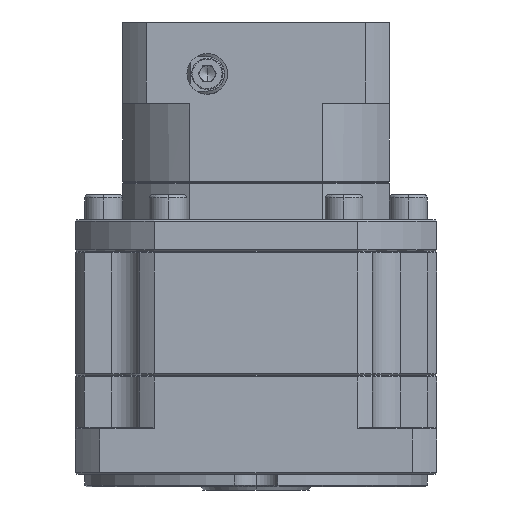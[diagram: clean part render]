
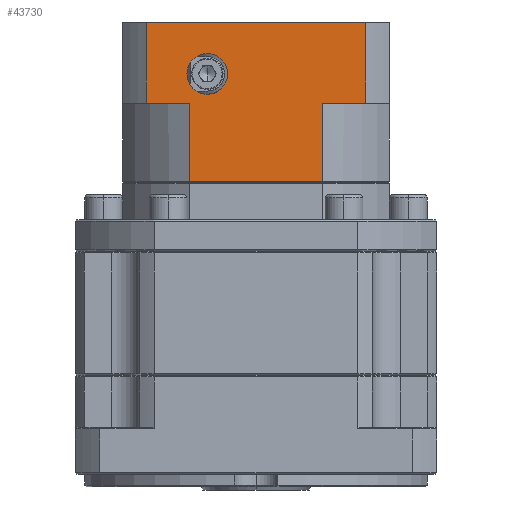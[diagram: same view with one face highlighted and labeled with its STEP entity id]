
A CAD part, left-side view. The second image highlights one B-rep face of the part: STEP entity #43730.
In plain terms, the highlighted planar face has unit normal (-1, 0, 0).
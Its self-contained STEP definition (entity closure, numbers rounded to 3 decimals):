
#202 = VERTEX_POINT ( 'NONE', #100916 ) ;
#3909 = CARTESIAN_POINT ( 'NONE',  ( -119.767, 53.201, -16.595 ) ) ;
#4497 = LINE ( 'NONE', #84396, #54358 ) ;
#4932 = LINE ( 'NONE', #22613, #28479 ) ;
#6840 = LINE ( 'NONE', #49712, #30420 ) ;
#7086 = VERTEX_POINT ( 'NONE', #32242 ) ;
#7719 = VECTOR ( 'NONE', #84152, 1000. ) ;
#10605 = VERTEX_POINT ( 'NONE', #52031 ) ;
#12235 = VECTOR ( 'NONE', #56264, 1000. ) ;
#12483 = VECTOR ( 'NONE', #39146, 1000. ) ;
#13974 = FACE_OUTER_BOUND ( 'NONE', #102643, .T. ) ;
#14211 = VERTEX_POINT ( 'NONE', #112211 ) ;
#15144 = EDGE_CURVE ( 'NONE', #66999, #48750, #107464, .T. ) ;
#15406 = ORIENTED_EDGE ( 'NONE', *, *, #86454, .F. ) ;
#18531 = ORIENTED_EDGE ( 'NONE', *, *, #49280, .F. ) ;
#19315 = CARTESIAN_POINT ( 'NONE',  ( -119.767, 58.915, -44.595 ) ) ;
#21307 = CARTESIAN_POINT ( 'NONE',  ( -119.767, 16.488, -19.445 ) ) ;
#22613 = CARTESIAN_POINT ( 'NONE',  ( -119.767, 16.488, -19.445 ) ) ;
#28479 = VECTOR ( 'NONE', #75646, 1000. ) ;
#28897 = EDGE_CURVE ( 'NONE', #79763, #63142, #104277, .T. ) ;
#29104 = DIRECTION ( 'NONE',  ( -1., 0., 0. ) ) ;
#29145 = ORIENTED_EDGE ( 'NONE', *, *, #81791, .F. ) ;
#29355 = ORIENTED_EDGE ( 'NONE', *, *, #104661, .F. ) ;
#29406 = ORIENTED_EDGE ( 'NONE', *, *, #15144, .F. ) ;
#30420 = VECTOR ( 'NONE', #102583, 1000. ) ;
#32242 = CARTESIAN_POINT ( 'NONE',  ( -119.767, 58.915, -19.445 ) ) ;
#33419 = VERTEX_POINT ( 'NONE', #56632 ) ;
#35570 = DIRECTION ( 'NONE',  ( 1., 0., 0. ) ) ;
#35963 = ORIENTED_EDGE ( 'NONE', *, *, #71957, .F. ) ;
#36096 = CARTESIAN_POINT ( 'NONE',  ( -119.767, 53.201, -10.095 ) ) ;
#37433 = DIRECTION ( 'NONE',  ( 0., -1., 0. ) ) ;
#39146 = DIRECTION ( 'NONE',  ( 0., 0., -1. ) ) ;
#40108 = CARTESIAN_POINT ( 'NONE',  ( -119.767, 37.701, -44.345 ) ) ;
#40978 = CARTESIAN_POINT ( 'NONE',  ( -119.767, 2.791, 6.255 ) ) ;
#41826 = EDGE_LOOP ( 'NONE', ( #48572, #29406 ) ) ;
#43049 = ORIENTED_EDGE ( 'NONE', *, *, #78081, .F. ) ;
#43730 = ADVANCED_FACE ( 'NONE', ( #13974, #72173 ), #52977, .F. ) ;
#44962 = DIRECTION ( 'NONE',  ( 0., 0., 1. ) ) ;
#45862 = VERTEX_POINT ( 'NONE', #21307 ) ;
#46300 = CARTESIAN_POINT ( 'NONE',  ( -119.767, 16.488, 6.255 ) ) ;
#48572 = ORIENTED_EDGE ( 'NONE', *, *, #91863, .F. ) ;
#48750 = VERTEX_POINT ( 'NONE', #112710 ) ;
#49274 = DIRECTION ( 'NONE',  ( 0., 1., 0. ) ) ;
#49280 = EDGE_CURVE ( 'NONE', #33419, #45862, #4932, .T. ) ;
#49712 = CARTESIAN_POINT ( 'NONE',  ( -119.767, 16.488, -44.595 ) ) ;
#51413 = LINE ( 'NONE', #19315, #98372 ) ;
#52031 = CARTESIAN_POINT ( 'NONE',  ( -119.767, 72.612, -19.445 ) ) ;
#52977 = PLANE ( 'NONE',  #76260 ) ;
#54358 = VECTOR ( 'NONE', #49274, 1000. ) ;
#55395 = ORIENTED_EDGE ( 'NONE', *, *, #28897, .F. ) ;
#56264 = DIRECTION ( 'NONE',  ( 0., 0., 1. ) ) ;
#56632 = CARTESIAN_POINT ( 'NONE',  ( -119.767, 2.791, -19.445 ) ) ;
#59349 = LINE ( 'NONE', #100298, #12235 ) ;
#60341 = CIRCLE ( 'NONE', #89249, 6.5 ) ;
#61927 = EDGE_CURVE ( 'NONE', #10605, #79763, #59349, .T. ) ;
#63142 = VERTEX_POINT ( 'NONE', #40978 ) ;
#66999 = VERTEX_POINT ( 'NONE', #3909 ) ;
#68035 = AXIS2_PLACEMENT_3D ( 'NONE', #82097, #29104, #90890 ) ;
#71957 = EDGE_CURVE ( 'NONE', #45862, #202, #6840, .T. ) ;
#72173 = FACE_BOUND ( 'NONE', #41826, .T. ) ;
#75646 = DIRECTION ( 'NONE',  ( 0., 1., 0. ) ) ;
#76260 = AXIS2_PLACEMENT_3D ( 'NONE', #88435, #35570, #97362 ) ;
#78081 = EDGE_CURVE ( 'NONE', #7086, #10605, #4497, .T. ) ;
#78093 = VECTOR ( 'NONE', #37433, 1000. ) ;
#79763 = VERTEX_POINT ( 'NONE', #97859 ) ;
#80379 = LINE ( 'NONE', #92033, #12483 ) ;
#81113 = LINE ( 'NONE', #40108, #7719 ) ;
#81179 = ORIENTED_EDGE ( 'NONE', *, *, #61927, .F. ) ;
#81262 = DIRECTION ( 'NONE',  ( 0., 0., 1. ) ) ;
#81791 = EDGE_CURVE ( 'NONE', #14211, #7086, #51413, .T. ) ;
#82097 = CARTESIAN_POINT ( 'NONE',  ( -119.767, 53.201, -10.095 ) ) ;
#84152 = DIRECTION ( 'NONE',  ( 0., 1., 0. ) ) ;
#84396 = CARTESIAN_POINT ( 'NONE',  ( -119.767, 16.488, -19.445 ) ) ;
#86454 = EDGE_CURVE ( 'NONE', #202, #14211, #81113, .T. ) ;
#88435 = CARTESIAN_POINT ( 'NONE',  ( -119.767, 16.488, -44.595 ) ) ;
#89249 = AXIS2_PLACEMENT_3D ( 'NONE', #36096, #97886, #44962 ) ;
#90890 = DIRECTION ( 'NONE',  ( 0., 0., 1. ) ) ;
#91863 = EDGE_CURVE ( 'NONE', #48750, #66999, #60341, .T. ) ;
#92033 = CARTESIAN_POINT ( 'NONE',  ( -119.767, 2.791, -44.595 ) ) ;
#97362 = DIRECTION ( 'NONE',  ( 0., 0., -1. ) ) ;
#97859 = CARTESIAN_POINT ( 'NONE',  ( -119.767, 72.612, 6.255 ) ) ;
#97886 = DIRECTION ( 'NONE',  ( -1., 0., 0. ) ) ;
#98372 = VECTOR ( 'NONE', #81262, 1000. ) ;
#100298 = CARTESIAN_POINT ( 'NONE',  ( -119.767, 72.612, -44.595 ) ) ;
#100916 = CARTESIAN_POINT ( 'NONE',  ( -119.767, 16.488, -44.345 ) ) ;
#102583 = DIRECTION ( 'NONE',  ( 0., 0., -1. ) ) ;
#102643 = EDGE_LOOP ( 'NONE', ( #55395, #81179, #43049, #29145, #15406, #35963, #18531, #29355 ) ) ;
#104277 = LINE ( 'NONE', #46300, #78093 ) ;
#104661 = EDGE_CURVE ( 'NONE', #63142, #33419, #80379, .T. ) ;
#107464 = CIRCLE ( 'NONE', #68035, 6.5 ) ;
#112211 = CARTESIAN_POINT ( 'NONE',  ( -119.767, 58.915, -44.345 ) ) ;
#112710 = CARTESIAN_POINT ( 'NONE',  ( -119.767, 53.201, -3.595 ) ) ;
